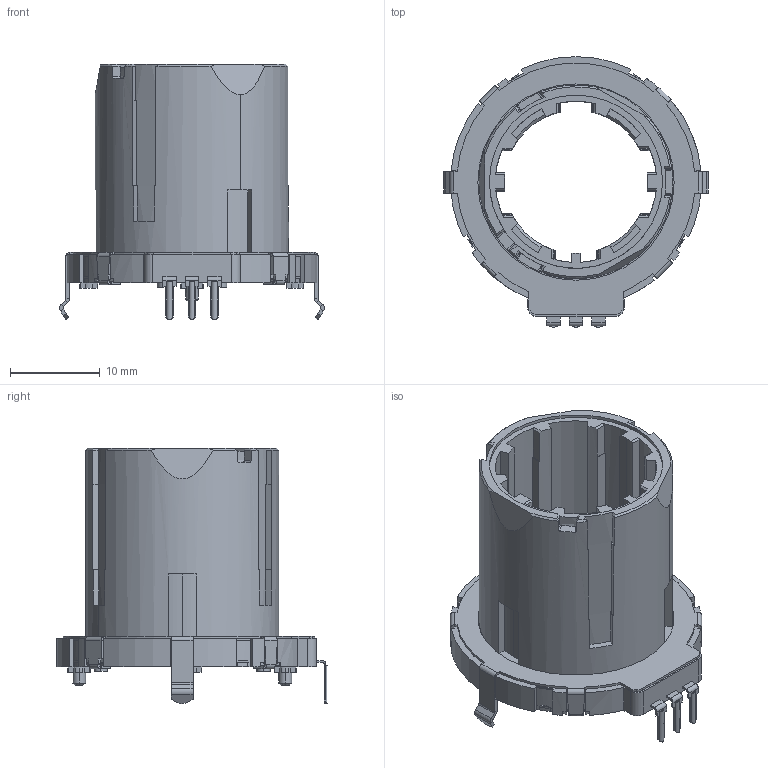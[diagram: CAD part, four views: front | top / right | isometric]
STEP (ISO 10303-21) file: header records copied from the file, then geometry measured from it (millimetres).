
FILE_DESCRIPTION (( 'STEP AP214' ), '1' );
FILE_NAME ('EC28A1560501.STEP', '2017-04-05T05:06:40', ( '' ), ( '' ), 'SwSTEP 2.0', 'SolidWorks 2014', '' );
FILE_SCHEMA (( 'AUTOMOTIVE_DESIGN' ));
Length unit declared in the file: millimetre
Products named in the file (1): EC28A1560501
Bounding box: 29.55 x 30.2 x 28.5 mm (x, y, z)
Volume: 3875.5 mm3; surface area: 4789.1 mm2
Topology: 1 solids, 1 shells, 705 faces, 1909 edges, 1220 vertices
Faces by surface type: plane 488, cylinder 186, bspline 16, cone 15
Entity records: 29949 total; most frequent: CARTESIAN_POINT 4435, ORIENTED_EDGE 3818, DIRECTION 3643, EDGE_CURVE 1909, VECTOR 1275, LINE 1275, VERTEX_POINT 1220, AXIS2_PLACEMENT_3D 1184
